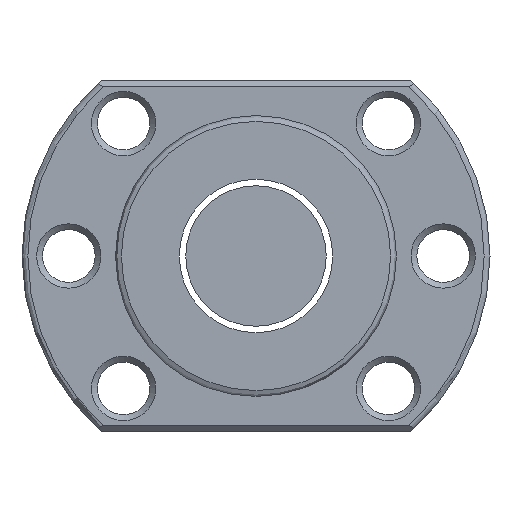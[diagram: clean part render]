
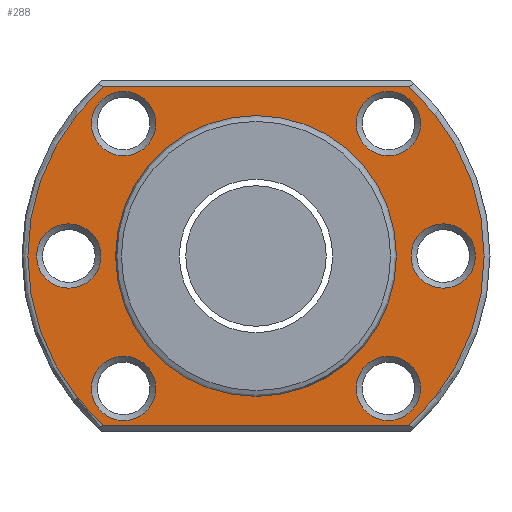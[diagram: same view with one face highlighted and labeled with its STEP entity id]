
A CAD part, left-side view. The second image highlights one B-rep face of the part: STEP entity #288.
In plain terms, the highlighted planar face has unit normal (-1, 0, 0).
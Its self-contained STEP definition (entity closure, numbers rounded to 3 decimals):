
#7 = CARTESIAN_POINT ( 'NONE',  ( -25., 20., -14.5 ) ) ;
#29 = FACE_BOUND ( 'NONE', #596, .T. ) ;
#36 = CARTESIAN_POINT ( 'NONE',  ( -25., 13.038, 14.5 ) ) ;
#38 = AXIS2_PLACEMENT_3D ( 'NONE', #881, #605, #709 ) ;
#59 = VERTEX_POINT ( 'NONE', #446 ) ;
#68 = CARTESIAN_POINT ( 'NONE',  ( -25., 11.314, -11.314 ) ) ;
#87 = CIRCLE ( 'NONE', #38, 19.5 ) ;
#101 = EDGE_CURVE ( 'NONE', #625, #625, #950, .T. ) ;
#107 = CARTESIAN_POINT ( 'NONE',  ( -25., -16., 2.75 ) ) ;
#116 = DIRECTION ( 'NONE',  ( 1., 0., 0. ) ) ;
#127 = DIRECTION ( 'NONE',  ( -1., 0., 0. ) ) ;
#164 = AXIS2_PLACEMENT_3D ( 'NONE', #191, #116, #730 ) ;
#173 = CARTESIAN_POINT ( 'NONE',  ( -25., -11.314, 11.314 ) ) ;
#180 = CARTESIAN_POINT ( 'NONE',  ( -25., 16., 2.75 ) ) ;
#188 = VERTEX_POINT ( 'NONE', #450 ) ;
#191 = CARTESIAN_POINT ( 'NONE',  ( -25., -11.314, -11.314 ) ) ;
#192 = EDGE_LOOP ( 'NONE', ( #197, #1110, #298, #1112 ) ) ;
#197 = ORIENTED_EDGE ( 'NONE', *, *, #400, .T. ) ;
#210 = CIRCLE ( 'NONE', #492, 12. ) ;
#224 = AXIS2_PLACEMENT_3D ( 'NONE', #819, #284, #731 ) ;
#225 = VECTOR ( 'NONE', #795, 1000. ) ;
#234 = CARTESIAN_POINT ( 'NONE',  ( -25., 20., 14.5 ) ) ;
#241 = EDGE_CURVE ( 'NONE', #188, #188, #527, .T. ) ;
#260 = DIRECTION ( 'NONE',  ( 1., 0., 0. ) ) ;
#264 = EDGE_CURVE ( 'NONE', #550, #550, #581, .T. ) ;
#272 = DIRECTION ( 'NONE',  ( 0., 0., -1. ) ) ;
#280 = EDGE_LOOP ( 'NONE', ( #675 ) ) ;
#281 = AXIS2_PLACEMENT_3D ( 'NONE', #68, #585, #403 ) ;
#283 = DIRECTION ( 'NONE',  ( 0., 0., 1. ) ) ;
#284 = DIRECTION ( 'NONE',  ( 1., 0., 0. ) ) ;
#285 = VERTEX_POINT ( 'NONE', #290 ) ;
#288 = ADVANCED_FACE ( 'NONE', ( #545, #648, #998, #29, #643, #1097, #295, #575 ), #929, .T. ) ;
#290 = CARTESIAN_POINT ( 'NONE',  ( -25., -13.038, -14.5 ) ) ;
#294 = VERTEX_POINT ( 'NONE', #382 ) ;
#295 = FACE_BOUND ( 'NONE', #515, .T. ) ;
#298 = ORIENTED_EDGE ( 'NONE', *, *, #1019, .T. ) ;
#299 = DIRECTION ( 'NONE',  ( 0., 0., 1. ) ) ;
#328 = CARTESIAN_POINT ( 'NONE',  ( -25., 13.038, -14.5 ) ) ;
#347 = EDGE_CURVE ( 'NONE', #690, #690, #1082, .T. ) ;
#360 = CARTESIAN_POINT ( 'NONE',  ( -25., -11.314, 14.064 ) ) ;
#361 = EDGE_CURVE ( 'NONE', #1131, #285, #809, .T. ) ;
#362 = ORIENTED_EDGE ( 'NONE', *, *, #241, .T. ) ;
#363 = CARTESIAN_POINT ( 'NONE',  ( -25., 11.314, 11.314 ) ) ;
#382 = CARTESIAN_POINT ( 'NONE',  ( -25., 0., -12. ) ) ;
#385 = DIRECTION ( 'NONE',  ( -1., 0., 0. ) ) ;
#400 = EDGE_CURVE ( 'NONE', #608, #1131, #87, .T. ) ;
#401 = CARTESIAN_POINT ( 'NONE',  ( -25., 0., 0. ) ) ;
#403 = DIRECTION ( 'NONE',  ( 0., 0., 1. ) ) ;
#410 = AXIS2_PLACEMENT_3D ( 'NONE', #363, #719, #784 ) ;
#422 = EDGE_LOOP ( 'NONE', ( #924 ) ) ;
#446 = CARTESIAN_POINT ( 'NONE',  ( -25., -13.038, 14.5 ) ) ;
#450 = CARTESIAN_POINT ( 'NONE',  ( -25., -11.314, -8.564 ) ) ;
#455 = VERTEX_POINT ( 'NONE', #107 ) ;
#488 = VECTOR ( 'NONE', #1116, 1000. ) ;
#492 = AXIS2_PLACEMENT_3D ( 'NONE', #1071, #260, #272 ) ;
#515 = EDGE_LOOP ( 'NONE', ( #770 ) ) ;
#522 = EDGE_CURVE ( 'NONE', #455, #455, #1079, .T. ) ;
#527 = CIRCLE ( 'NONE', #164, 2.75 ) ;
#545 = FACE_BOUND ( 'NONE', #1061, .T. ) ;
#546 = CIRCLE ( 'NONE', #281, 2.75 ) ;
#550 = VERTEX_POINT ( 'NONE', #180 ) ;
#552 = EDGE_LOOP ( 'NONE', ( #1127 ) ) ;
#554 = CARTESIAN_POINT ( 'NONE',  ( -25., 11.314, -8.564 ) ) ;
#575 = FACE_OUTER_BOUND ( 'NONE', #192, .T. ) ;
#581 = CIRCLE ( 'NONE', #824, 2.75 ) ;
#585 = DIRECTION ( 'NONE',  ( 1., 0., 0. ) ) ;
#596 = EDGE_LOOP ( 'NONE', ( #689 ) ) ;
#605 = DIRECTION ( 'NONE',  ( -1., 0., 0. ) ) ;
#608 = VERTEX_POINT ( 'NONE', #36 ) ;
#625 = VERTEX_POINT ( 'NONE', #1076 ) ;
#643 = FACE_BOUND ( 'NONE', #422, .T. ) ;
#648 = FACE_BOUND ( 'NONE', #774, .T. ) ;
#652 = VERTEX_POINT ( 'NONE', #554 ) ;
#675 = ORIENTED_EDGE ( 'NONE', *, *, #347, .T. ) ;
#689 = ORIENTED_EDGE ( 'NONE', *, *, #101, .T. ) ;
#690 = VERTEX_POINT ( 'NONE', #360 ) ;
#696 = EDGE_CURVE ( 'NONE', #59, #608, #1035, .T. ) ;
#709 = DIRECTION ( 'NONE',  ( 0., 0., 1. ) ) ;
#719 = DIRECTION ( 'NONE',  ( 1., 0., 0. ) ) ;
#721 = DIRECTION ( 'NONE',  ( 0., 0., 1. ) ) ;
#726 = EDGE_CURVE ( 'NONE', #652, #652, #546, .T. ) ;
#729 = AXIS2_PLACEMENT_3D ( 'NONE', #173, #964, #721 ) ;
#730 = DIRECTION ( 'NONE',  ( 0., 0., 1. ) ) ;
#731 = DIRECTION ( 'NONE',  ( 0., 0., 1. ) ) ;
#755 = DIRECTION ( 'NONE',  ( 0., 0., 1. ) ) ;
#770 = ORIENTED_EDGE ( 'NONE', *, *, #911, .T. ) ;
#774 = EDGE_LOOP ( 'NONE', ( #1033 ) ) ;
#784 = DIRECTION ( 'NONE',  ( 0., 0., 1. ) ) ;
#795 = DIRECTION ( 'NONE',  ( 0., -1., 0. ) ) ;
#809 = LINE ( 'NONE', #7, #225 ) ;
#819 = CARTESIAN_POINT ( 'NONE',  ( -25., -16., 0. ) ) ;
#824 = AXIS2_PLACEMENT_3D ( 'NONE', #983, #1007, #283 ) ;
#841 = CARTESIAN_POINT ( 'NONE',  ( -25., 20., 0. ) ) ;
#844 = CIRCLE ( 'NONE', #1029, 19.5 ) ;
#881 = CARTESIAN_POINT ( 'NONE',  ( -25., 0., 0. ) ) ;
#911 = EDGE_CURVE ( 'NONE', #294, #294, #210, .T. ) ;
#924 = ORIENTED_EDGE ( 'NONE', *, *, #264, .T. ) ;
#929 = PLANE ( 'NONE',  #969 ) ;
#950 = CIRCLE ( 'NONE', #410, 2.75 ) ;
#964 = DIRECTION ( 'NONE',  ( 1., 0., 0. ) ) ;
#969 = AXIS2_PLACEMENT_3D ( 'NONE', #841, #127, #755 ) ;
#983 = CARTESIAN_POINT ( 'NONE',  ( -25., 16., 0. ) ) ;
#998 = FACE_BOUND ( 'NONE', #280, .T. ) ;
#1007 = DIRECTION ( 'NONE',  ( 1., 0., 0. ) ) ;
#1019 = EDGE_CURVE ( 'NONE', #285, #59, #844, .T. ) ;
#1029 = AXIS2_PLACEMENT_3D ( 'NONE', #401, #385, #299 ) ;
#1033 = ORIENTED_EDGE ( 'NONE', *, *, #522, .T. ) ;
#1035 = LINE ( 'NONE', #234, #488 ) ;
#1061 = EDGE_LOOP ( 'NONE', ( #362 ) ) ;
#1071 = CARTESIAN_POINT ( 'NONE',  ( -25., 0., 0. ) ) ;
#1076 = CARTESIAN_POINT ( 'NONE',  ( -25., 11.314, 14.064 ) ) ;
#1079 = CIRCLE ( 'NONE', #224, 2.75 ) ;
#1082 = CIRCLE ( 'NONE', #729, 2.75 ) ;
#1097 = FACE_BOUND ( 'NONE', #552, .T. ) ;
#1110 = ORIENTED_EDGE ( 'NONE', *, *, #361, .T. ) ;
#1112 = ORIENTED_EDGE ( 'NONE', *, *, #696, .T. ) ;
#1116 = DIRECTION ( 'NONE',  ( 0., 1., 0. ) ) ;
#1127 = ORIENTED_EDGE ( 'NONE', *, *, #726, .T. ) ;
#1131 = VERTEX_POINT ( 'NONE', #328 ) ;
